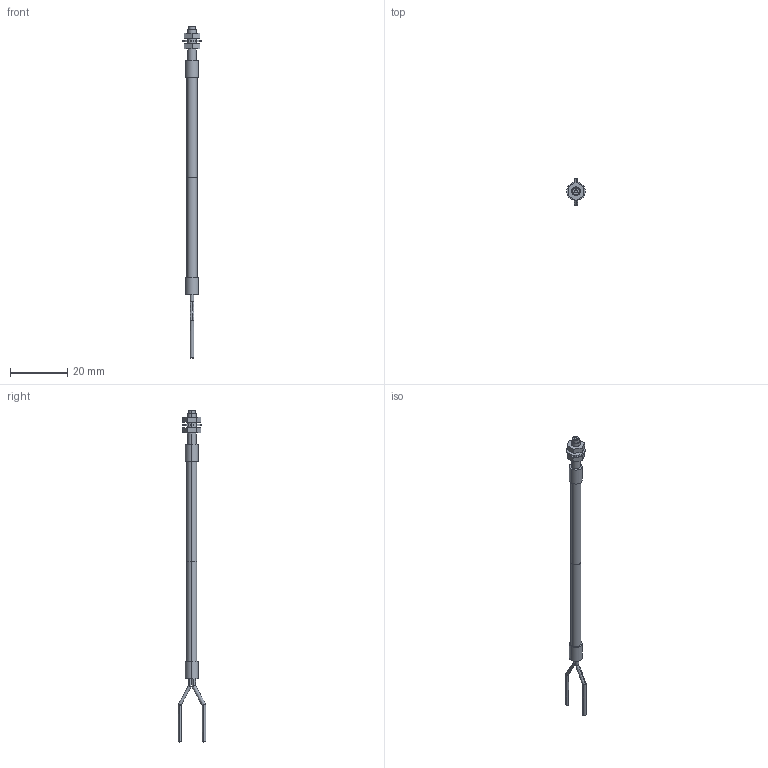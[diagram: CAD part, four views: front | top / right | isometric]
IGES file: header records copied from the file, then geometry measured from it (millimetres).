
Start section: SolidWorks IGES FILE using analytic representation for surfaces
Global section: file name: C:\Documents and Settings\yk0651\デスクトップ\3D_catalog_050904\0_IGES\FD-G6X.IGS; native system: SolidWorks 2004 by SolidWorks Corporation; preprocessor: Version 5.3; author: yk0651; date: 050904.183548; units: millimetre
Bounding box: 6.5 x 9.66 x 116.19 mm (x, y, z)
Volume: 1076.3 mm3; surface area: 1526.9 mm2
Topology: 5 solids, 5 shells, 63 faces, 138 edges, 92 vertices
Faces by surface type: revolution 34, plane 29
